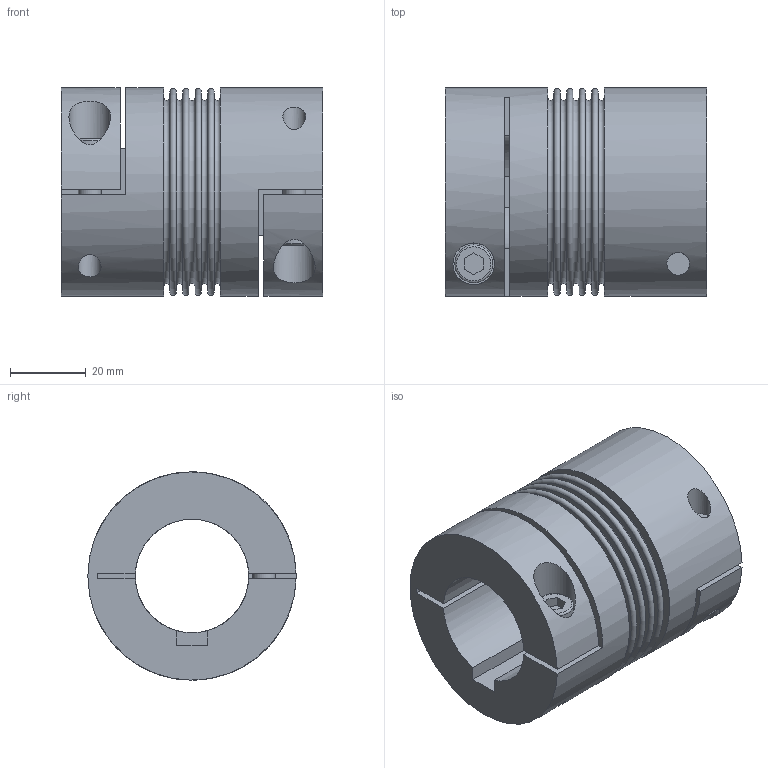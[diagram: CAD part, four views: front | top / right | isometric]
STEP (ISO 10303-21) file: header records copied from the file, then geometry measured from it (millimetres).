
FILE_DESCRIPTION(/* description */ ('STEP AP203'),/* implementation_level */ '2;1');
FILE_NAME(/* name */ 'C:\Diequa Files\DieQua Coupling\Website Step Files\BC.30.69.#.#.stp',/* time_stamp */ '2020-02-17T09:46:02-06:00',/* author */ ('DiequaCAD'),/* organization */ (''),/* preprocessor_version */ 'ST-DEVELOPER v18',/* originating_system */ 'Autodesk Inventor 2020',/* authorisation */ ' ');
FILE_SCHEMA (('AUTOMOTIVE_DESIGN { 1 0 10303 214 3 1 1 }'));
Length unit declared in the file: millimetre
Products named in the file (1): BC.30.69.#.#
Bounding box: 69 x 55 x 55 mm (x, y, z)
Volume: 89531.9 mm3; surface area: 34177.4 mm2
Topology: 1 solids, 1 shells, 80 faces, 198 edges, 138 vertices
Faces by surface type: plane 54, cylinder 15, torus 11
Full cylindrical faces by diameter (mm): 6 x4, 10 x2, 11 x2, 46 x1, 55 x2
Entity records: 2622 total; most frequent: CARTESIAN_POINT 567, DIRECTION 439, ORIENTED_EDGE 396, EDGE_CURVE 198, AXIS2_PLACEMENT_3D 166, VERTEX_POINT 138, LINE 107, VECTOR 107
